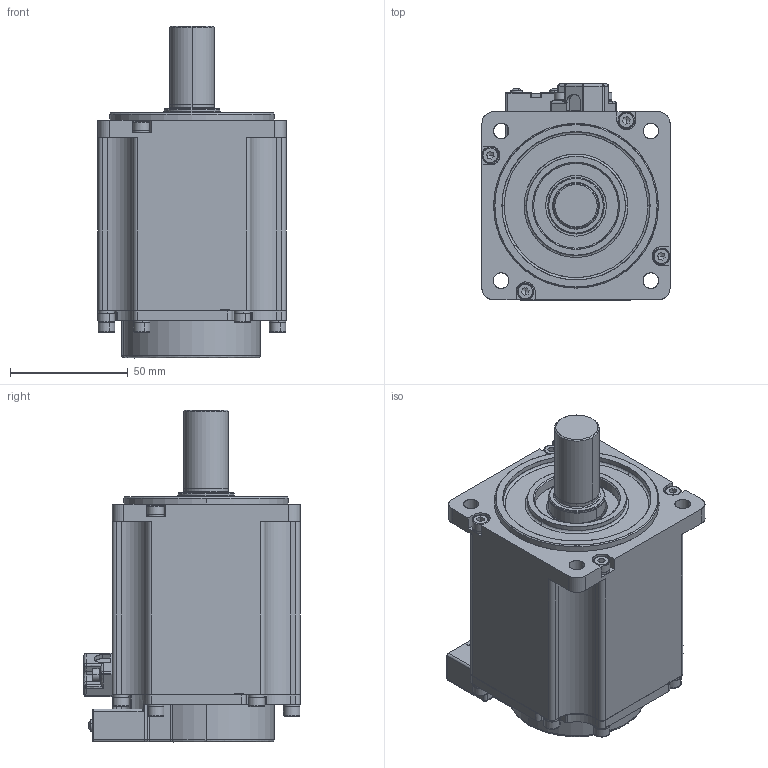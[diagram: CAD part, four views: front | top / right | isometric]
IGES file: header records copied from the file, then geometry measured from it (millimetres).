
Start section: SolidWorks IGES file using analytic representation for surfaces
Bounding box: 80.03 x 92.02 x 141.2 mm (x, y, z)
Surface area: 96509.7 mm2 (no closed solid volume)
Topology: 0 solids, 0 shells, 1031 faces, 13715 edges, 13634 vertices
Faces by surface type: revolution 546, bspline 485
